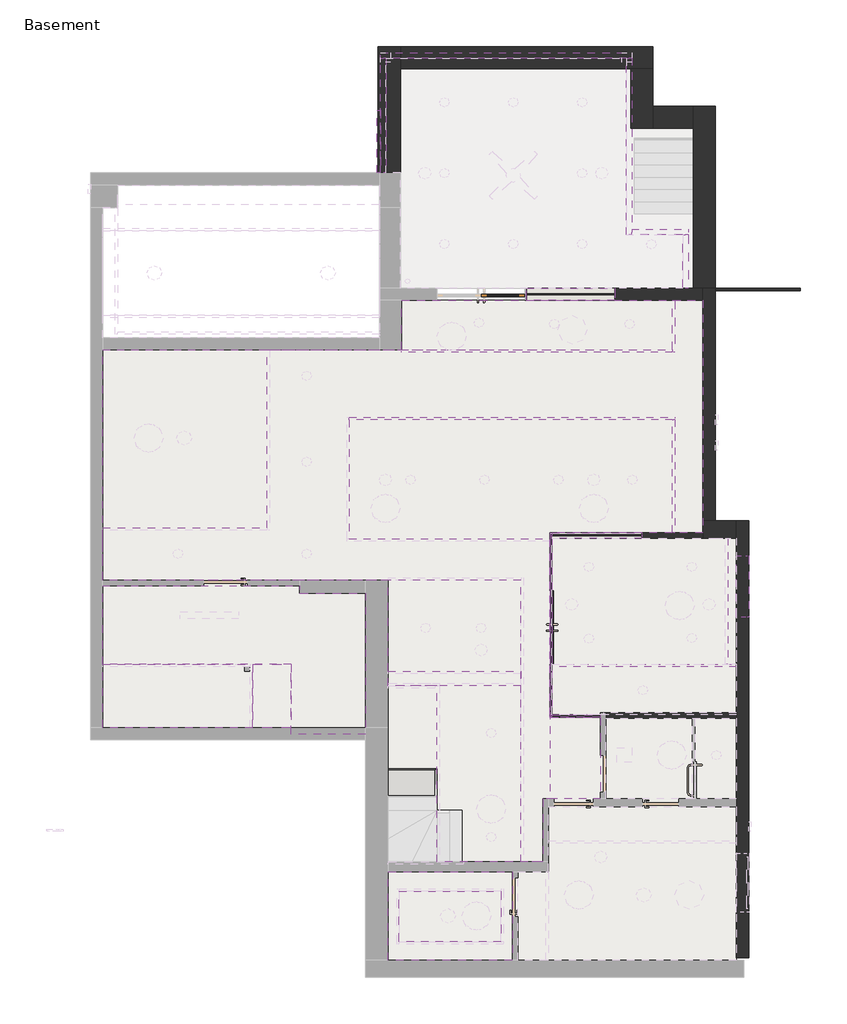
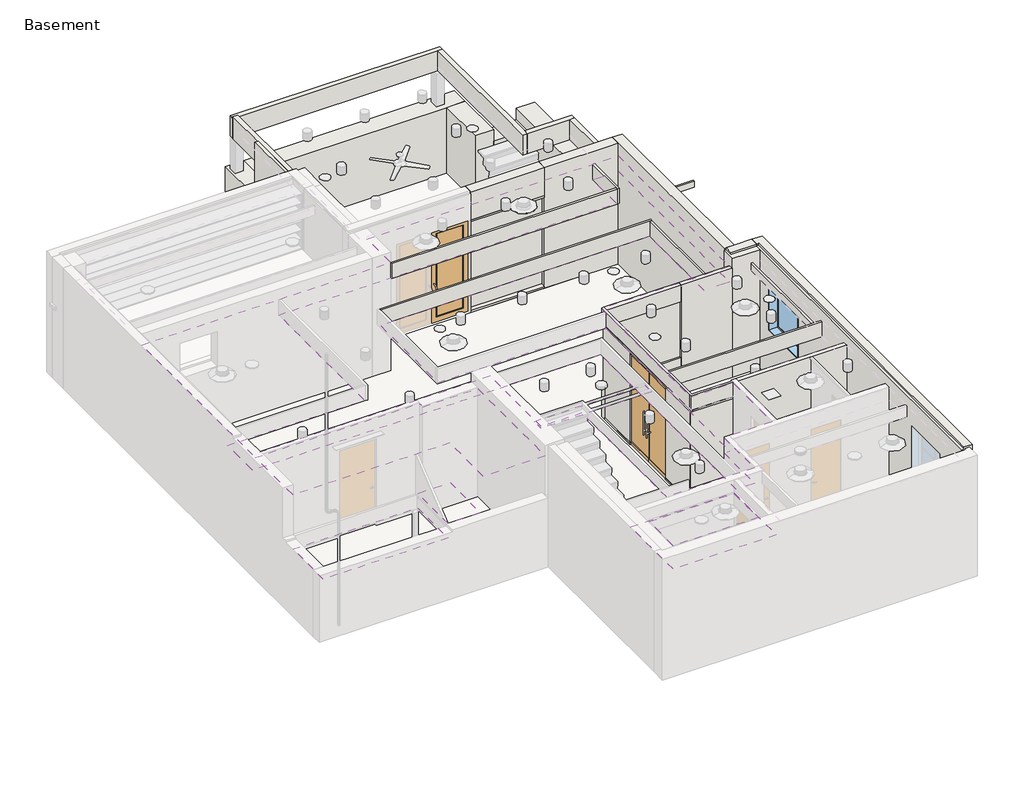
# One storey, part 2 of 3: 39 walls, 9 coverings, 3 doors, 1 slab, 1 window.
"""IFC4 building model written with IfcOpenShell, lengths in millimetres."""

from ifc_helpers import new_model, si_unit, point, frame, frame_2d, origin, place, context, project, spatial, polyline, circle_curve, trimmed, segment, composite_curve, outline, extrude, faceted_brep, transform, mapped, element, save
from components import door_6469e1a2, door_6d8508cd, door_7e4cb601, default_1_12f2cc98

model = new_model("IFC4")

# Units and contexts
model_context = context("Model", 3, world=origin())
ifc_project = project(units=[si_unit("LENGTHUNIT", "METRE", prefix="MILLI")], contexts=[model_context])

# Site, building, storey
site = spatial("IfcSite", under=ifc_project)
building = spatial("IfcBuilding", under=site)
storey = spatial("IfcBuildingStorey", under=building, Name="Basement", Elevation=-3175.0)

# Coverings
placement = place(None, origin())
element("IfcCovering", 1, ObjectType="2\"\" Open Ceiling", at=placement, inside=storey, context=model_context, shape_type="Brep", body=[
    faceted_brep([(13738.9081773, 7161.5409405, -317.5), (12373.8517773, 7161.5409405, -317.5), (12373.8517773, 7313.9409405, -317.5), (8297.1517773, 7313.9409405, -317.5), (8297.1517773, 5688.3409405, -317.5), (12196.0517773, 5688.3409405, -317.5), (12196.0517773, 4240.5409405, -317.5), (13738.9081773, 4240.5409405, -317.5), (13738.9081773, 7161.5409405, -330.2), (13738.9081773, 4240.5409405, -330.2), (12196.0517773, 4240.5409405, -330.2), (12196.0517773, 5688.3409405, -330.2), (8297.1517773, 5688.3409405, -330.2), (8297.1517773, 7313.9409405, -330.2), (12373.8517773, 7313.9409405, -330.2), (12373.8517773, 7161.5409405, -330.2), (11113.5517773, 6670.0857797, -330.2), (9900.3517773, 6670.0857797, -330.2), (9900.3517773, 6636.0857797, -330.2), (11113.5517773, 6636.0857797, -330.2), (11113.5517773, 6670.0857797, -325.8100103), (9900.3517773, 6670.0857797, -325.8100103), (9900.3517773, 6636.0857797, -325.8100103), (11113.5517773, 6636.0857797, -325.8100103)], [[[0, 1, 2, 3, 4, 5, 6, 7]], [[8, 9, 10, 11, 12, 13, 14, 15], [16, 17, 18, 19]], [[1, 0, 8, 15]], [[2, 1, 15, 14]], [[3, 2, 14, 13]], [[4, 3, 13, 12]], [[7, 6, 10, 9]], [[0, 7, 9, 8]], [[20, 21, 17, 16]], [[21, 22, 18, 17]], [[22, 23, 19, 18]], [[23, 20, 16, 19]], [[20, 23, 22, 21]], [[5, 4, 12, 11]], [[6, 5, 11, 10]]]),
])
element("IfcCovering", 2, ObjectType="1/2\" Ceiling", at=placement, inside=storey, context=model_context, shape_type="SweptSolid", body=[
    extrude(outline(polyline([(17415.7517773, 2907.0409405), (17415.7517773, 1598.9409405), (15225.0017773, 1598.9409405), (15225.0017773, 5243.8409405), (14208.8081773, 5243.8409405), (14208.8081773, 7428.2409405), (12373.8517773, 7428.2409405), (8297.1517773, 7428.2409405), (8297.1517773, 12203.4409405), (14484.4174773, 12203.4409405), (14484.4174773, 13225.7909405), (17072.8517773, 13225.7909405), (18901.6517773, 13225.7909405), (20730.4517773, 13225.7909405), (20730.4517773, 8418.8409405), (19460.4517773, 8418.8409405), (17555.4517773, 8418.8409405), (17555.4517773, 4596.1409405), (18609.5517773, 4596.1409405), (18609.5517773, 2907.0409405), (17415.7517773, 2907.0409405)]), holes=[composite_curve([segment(trimmed(circle_curve(frame_2d((14672.5517773, 9511.0409405)), 87.3), [point((14759.8517773, 9511.0409405))], [point((14585.2517773, 9511.0409405))], True, "CARTESIAN"), True, "CONTINUOUS"), segment(trimmed(circle_curve(frame_2d((14672.5517773, 9511.0409405)), 87.3), [point((14585.2517773, 9511.0409405))], [point((14759.8517773, 9511.0409405))], True, "CARTESIAN"), True, "CONTINUOUS")], self_intersect=False), composite_curve([segment(trimmed(circle_curve(frame_2d((16205.0219773, 9511.0409405)), 87.3), [point((16292.3219773, 9511.0409405))], [point((16117.7219773, 9511.0409405))], True, "CARTESIAN"), True, "CONTINUOUS"), segment(trimmed(circle_curve(frame_2d((16205.0219773, 9511.0409405)), 87.3), [point((16117.7219773, 9511.0409405))], [point((16292.3219773, 9511.0409405))], True, "CARTESIAN"), True, "CONTINUOUS")], self_intersect=False), composite_curve([segment(trimmed(circle_curve(frame_2d((17737.4921773, 9511.0409405)), 87.3), [point((17824.7921773, 9511.0409405))], [point((17650.1921773, 9511.0409405))], True, "CARTESIAN"), True, "CONTINUOUS"), segment(trimmed(circle_curve(frame_2d((17737.4921773, 9511.0409405)), 87.3), [point((17650.1921773, 9511.0409405))], [point((17824.7921773, 9511.0409405))], True, "CARTESIAN"), True, "CONTINUOUS")], self_intersect=False), composite_curve([segment(trimmed(circle_curve(frame_2d((19269.9623773, 9511.0409405)), 87.3), [point((19357.2623773, 9511.0409405))], [point((19182.6623773, 9511.0409405))], True, "CARTESIAN"), True, "CONTINUOUS"), segment(trimmed(circle_curve(frame_2d((19269.9623773, 9511.0409405)), 87.3), [point((19182.6623773, 9511.0409405))], [point((19357.2623773, 9511.0409405))], True, "CARTESIAN"), True, "CONTINUOUS")], self_intersect=False), composite_curve([segment(trimmed(circle_curve(frame_2d((19212.8123773, 12736.8409405)), 87.3), [point((19300.1123773, 12736.8409405))], [point((19125.5123773, 12736.8409405))], True, "CARTESIAN"), True, "CONTINUOUS"), segment(trimmed(circle_curve(frame_2d((19212.8123773, 12736.8409405)), 87.3), [point((19125.5123773, 12736.8409405))], [point((19300.1123773, 12736.8409405))], True, "CARTESIAN"), True, "CONTINUOUS")], self_intersect=False), composite_curve([segment(trimmed(circle_curve(frame_2d((17650.7123773, 12736.8409405)), 87.3), [point((17738.0123773, 12736.8409405))], [point((17563.4123773, 12736.8409405))], True, "CARTESIAN"), True, "CONTINUOUS"), segment(trimmed(circle_curve(frame_2d((17650.7123773, 12736.8409405)), 87.3), [point((17563.4123773, 12736.8409405))], [point((17738.0123773, 12736.8409405))], True, "CARTESIAN"), True, "CONTINUOUS")], self_intersect=False), composite_curve([segment(trimmed(circle_curve(frame_2d((16088.6123773, 12762.2409405)), 87.3), [point((16175.9123773, 12762.2409405))], [point((16001.3123773, 12762.2409405))], True, "CARTESIAN"), True, "CONTINUOUS"), segment(trimmed(circle_curve(frame_2d((16088.6123773, 12762.2409405)), 87.3), [point((16001.3123773, 12762.2409405))], [point((16175.9123773, 12762.2409405))], True, "CARTESIAN"), True, "CONTINUOUS")], self_intersect=False), composite_curve([segment(trimmed(circle_curve(frame_2d((16342.6017773, 2113.2909405)), 87.3), [point((16429.9017773, 2113.2909405))], [point((16255.3017773, 2113.2909405))], True, "CARTESIAN"), True, "CONTINUOUS"), segment(trimmed(circle_curve(frame_2d((16342.6017773, 2113.2909405)), 87.3), [point((16255.3017773, 2113.2909405))], [point((16429.9017773, 2113.2909405))], True, "CARTESIAN"), True, "CONTINUOUS")], self_intersect=False), composite_curve([segment(trimmed(circle_curve(frame_2d((16342.6017773, 4265.9409405)), 87.3), [point((16429.9017773, 4265.9409405))], [point((16255.3017773, 4265.9409405))], True, "CARTESIAN"), True, "CONTINUOUS"), segment(trimmed(circle_curve(frame_2d((16342.6017773, 4265.9409405)), 87.3), [point((16255.3017773, 4265.9409405))], [point((16429.9017773, 4265.9409405))], True, "CARTESIAN"), True, "CONTINUOUS")], self_intersect=False), composite_curve([segment(trimmed(circle_curve(frame_2d((14983.7017773, 6443.9909405)), 87.3), [point((15071.0017773, 6443.9909405))], [point((14896.4017773, 6443.9909405))], True, "CARTESIAN"), True, "CONTINUOUS"), segment(trimmed(circle_curve(frame_2d((14983.7017773, 6443.9909405)), 87.3), [point((14896.4017773, 6443.9909405))], [point((15071.0017773, 6443.9909405))], True, "CARTESIAN"), True, "CONTINUOUS")], self_intersect=False), composite_curve([segment(trimmed(circle_curve(frame_2d((16133.0517773, 6443.9909405)), 87.3), [point((16220.3517773, 6443.9909405))], [point((16045.7517773, 6443.9909405))], True, "CARTESIAN"), True, "CONTINUOUS"), segment(trimmed(circle_curve(frame_2d((16133.0517773, 6443.9909405)), 87.3), [point((16045.7517773, 6443.9909405))], [point((16220.3517773, 6443.9909405))], True, "CARTESIAN"), True, "CONTINUOUS")], self_intersect=False)]), frame((0.0, 0.0, -330.2), z_axis=(0.0, 0.0, 1.0), x_axis=(1.0, 0.0, 0.0)), (0.0, 0.0, 1.0), 12.7),
])
element("IfcCovering", 3, ObjectType="1/2\" Ceiling", at=placement, inside=storey, context=model_context, shape_type="SweptSolid", body=[
    extrude(outline(polyline([(16545.8017773, -58.4090595), (14437.6017773, -58.4090595), (14437.6017773, 989.3409405), (16545.8017773, 989.3409405), (16545.8017773, -58.4090595)])), frame((0.0, 0.0, -330.2), z_axis=(0.0, 0.0, 1.0), x_axis=(1.0, 0.0, 0.0)), (0.0, 0.0, 1.0), 12.7),
])
element("IfcCovering", 4, ObjectType="1/2\" Ceiling", at=placement, inside=storey, context=model_context, shape_type="SweptSolid", body=[
    extrude(outline(polyline([(8297.1517773, 7428.2409405), (8297.1517773, 8514.0909405), (11700.7517773, 8514.0909405), (11700.7517773, 12203.4409405), (20095.4517773, 12203.4409405), (20095.4517773, 13225.7909405), (20730.4517773, 13225.7909405), (20730.4517773, 8418.8409405), (20095.4517773, 8418.8409405), (20095.4517773, 10755.6409405), (13402.5517773, 10755.6409405), (13402.5517773, 8291.8409405), (17555.4517773, 8291.8409405), (17555.4517773, 2907.0409405), (17415.7517773, 2907.0409405), (17415.7517773, 1598.9409405), (16958.5517773, 1598.9409405), (16958.5517773, 7428.2409405), (8297.1517773, 7428.2409405)]), holes=[composite_curve([segment(trimmed(circle_curve(frame_2d((9852.9017773, 7980.6909405)), 87.3), [point((9940.2017773, 7980.6909405))], [point((9765.6017773, 7980.6909405))], True, "CARTESIAN"), True, "CONTINUOUS"), segment(trimmed(circle_curve(frame_2d((9852.9017773, 7980.6909405)), 87.3), [point((9765.6017773, 7980.6909405))], [point((9940.2017773, 7980.6909405))], True, "CARTESIAN"), True, "CONTINUOUS")], self_intersect=False), composite_curve([segment(trimmed(circle_curve(frame_2d((12519.9985773, 7980.6909405)), 87.3), [point((12607.2985773, 7980.6909405))], [point((12432.6985773, 7980.6909405))], True, "CARTESIAN"), True, "CONTINUOUS"), segment(trimmed(circle_curve(frame_2d((12519.9985773, 7980.6909405)), 87.3), [point((12432.6985773, 7980.6909405))], [point((12607.2985773, 7980.6909405))], True, "CARTESIAN"), True, "CONTINUOUS")], self_intersect=False), composite_curve([segment(trimmed(circle_curve(frame_2d((12519.9985773, 9885.6909405)), 87.3), [point((12607.2985773, 9885.6909405))], [point((12432.6985773, 9885.6909405))], True, "CARTESIAN"), True, "CONTINUOUS"), segment(trimmed(circle_curve(frame_2d((12519.9985773, 9885.6909405)), 87.3), [point((12432.6985773, 9885.6909405))], [point((12607.2985773, 9885.6909405))], True, "CARTESIAN"), True, "CONTINUOUS")], self_intersect=False), composite_curve([segment(trimmed(circle_curve(frame_2d((12519.9985773, 11663.6909405)), 87.3), [point((12607.2985773, 11663.6909405))], [point((12432.6985773, 11663.6909405))], True, "CARTESIAN"), True, "CONTINUOUS"), segment(trimmed(circle_curve(frame_2d((12519.9985773, 11663.6909405)), 87.3), [point((12432.6985773, 11663.6909405))], [point((12607.2985773, 11663.6909405))], True, "CARTESIAN"), True, "CONTINUOUS")], self_intersect=False)]), frame((0.0, 0.0, -736.6), z_axis=(0.0, 0.0, 1.0), x_axis=(1.0, 0.0, 0.0)), (0.0, 0.0, 1.0), 12.7),
])
element("IfcCovering", 5, ObjectType="1/2\" Ceiling", at=placement, inside=storey, context=model_context, shape_type="SweptSolid", body=[
    extrude(outline(polyline([(16780.7517773, 1395.7409405), (16780.7517773, -439.4090595), (14208.8081773, -439.4090595), (14208.8081773, 1395.7409405), (16780.7517773, 1395.7409405)]), holes=[polyline([(16545.8017773, 989.3409405), (14437.6017773, 989.3409405), (14437.6017773, -58.4090595), (16545.8017773, -58.4090595), (16545.8017773, 989.3409405)])]), frame((0.0, 0.0, -635.0), z_axis=(0.0, 0.0, 1.0), x_axis=(1.0, 0.0, 0.0)), (0.0, 0.0, 1.0), 12.7),
])
element("IfcCovering", 6, ObjectType="1/2\" Ceiling", at=placement, inside=storey, context=model_context, shape_type="SweptSolid", body=[
    extrude(outline(polyline([(14208.8081773, 5548.6409405), (16958.5517773, 5548.6409405), (16958.5517773, 5243.8409405), (14208.8081773, 5243.8409405), (14208.8081773, 5548.6409405)])), frame((0.0, 0.0, -381.0), z_axis=(0.0, 0.0, 1.0), x_axis=(1.0, 0.0, 0.0)), (0.0, 0.0, 1.0), 12.7),
])
element("IfcCovering", 7, ObjectType="1/2\" Ceiling", at=placement, inside=storey, context=model_context, shape_type="SweptSolid", body=[
    extrude(outline(polyline([(8297.1517773, 5688.3409405), (11395.9517773, 5688.3409405), (11395.9517773, 4380.2409405), (8297.1517773, 4380.2409405), (8297.1517773, 5688.3409405)])), frame((0.0, 0.0, -1752.6), z_axis=(0.0, 0.0, 1.0), x_axis=(1.0, 0.0, 0.0)), (0.0, 0.0, 1.0), 12.7),
])
element("IfcCovering", 8, ObjectType="1/2\" Ceiling", at=placement, inside=storey, context=model_context, shape_type="SweptSolid", body=[
    extrude(outline(polyline([(4380.2409405, -1355.372211), (5688.3409405, -314.8624885), (5688.3409405, -331.0902774), (4380.2409405, -1371.6), (4380.2409405, -1355.372211)])), frame((11395.9517773, 0.0, 0.0), z_axis=(1.0, 0.0, 0.0), x_axis=(0.0, 1.0, 0.0)), (0.0, 0.0, 1.0), 804.9),
])
element("IfcCovering", 9, ObjectType="1/2\" Ceiling", at=placement, inside=storey, context=model_context, shape_type="Brep", body=[
    faceted_brep([(14208.8081773, 5243.8409405, -418.9315203), (14208.8081773, 5228.379826, -432.8039849), (14208.8081773, 2665.3409405, -2732.4872525), (15225.0017773, 2665.3409405, -2732.4872525), (15225.0017773, 2665.7409405, -2732.128353), (15225.0017773, 5243.8409405, -418.9315203), (15174.2017773, 5243.8409405, -418.9315203), (14208.8081773, 5243.8409405, -435.9942679), (15225.0017773, 5243.8409405, -435.9942679), (15225.0017773, 2665.3409405, -2749.55), (14208.8081773, 2665.3409405, -2749.55)], [[[0, 1, 2, 3, 4, 5, 6]], [[7, 8, 9, 10]], [[2, 1, 0, 7, 10]], [[3, 2, 10, 9]], [[5, 4, 3, 9, 8]], [[0, 6, 5, 8, 7]]]),
])

# Doors
door_shape = door_6469e1a2(model_context)
element("IfcDoor", 10, ObjectType="Planitar - Swap_Full Glass_Panel_D2 : Planitar - Swap_Full Glass_Panel_D2", at=placement, inside=storey, context=model_context, shape_type="MappedRepresentation", body=[
    mapped(door_shape, transform((17606.2517773, 6069.3409405, -3175.0), x_axis=(0.0, -1.0, 0.0), y_axis=(1.0, 0.0, 0.0), z_axis=(0.0, 0.0, 1.0))),
])
door_2_shape = door_6d8508cd(model_context)
element("IfcDoor", 11, ObjectType="Planitar - Swap_Full Glass_Panel : Planitar - Swap_Full Glass_Panel", at=placement, inside=storey, context=model_context, shape_type="MappedRepresentation", body=[
    mapped(door_2_shape, transform((16590.2517773, 13327.3909405, -3175.0), x_axis=(1.0, 0.0, 0.0), y_axis=(0.0, 1.0, 0.0), z_axis=(0.0, 0.0, 1.0))),
])
door_3_shape = door_7e4cb601(model_context)
element("IfcDoor", 12, ObjectType="Planitar - Swap_Full Glass_Panel_D2 : Planitar - Swap_Full Glass_Panel_D2", at=placement, inside=storey, context=model_context, shape_type="MappedRepresentation", body=[
    mapped(door_3_shape, transform((17606.2517773, 6831.3409405, -3175.0), x_axis=(0.0, 1.0, 0.0), y_axis=(-1.0, 0.0, 0.0), z_axis=(0.0, 0.0, 1.0))),
])

# Slab
element("IfcSlab", 13, ObjectType="Ledge - 2\"", at=placement, inside=storey, context=model_context, shape_type="SweptSolid", body=[
    extrude(outline(polyline([(8297.1517773, 4380.2409405), (8297.1517773, 12203.4409405), (14484.4174773, 12203.4409405), (14484.4174773, 13225.7909405), (20730.4517773, 13225.7909405), (20730.4517773, 8304.5409405), (21422.6017773, 8304.5409405), (21422.6017773, -439.4090595), (14208.8081773, -439.4090595), (14208.8081773, 4380.2409405), (8297.1517773, 4380.2409405)])), frame((0.0, 0.0, -3225.8), z_axis=(0.0, 0.0, 1.0), x_axis=(1.0, 0.0, 0.0)), (0.0, 0.0, 1.0), 50.8),
])

# Walls
element("IfcWall", 14, ObjectType="Planitar - Generic 10\"", at=placement, inside=storey, context=model_context, shape_type="Brep", body=[
    faceted_brep([(21676.6017773, -388.6090595, -3175.0), (21676.6017773, 8660.1409405, -3175.0), (21676.6017773, 8660.1409405, 0.0), (21676.6017773, -388.6090595, 0.0), (21676.6017773, 557.5409405, -1955.8), (21676.6017773, 557.5409405, -736.6), (21676.6017773, 1776.7409405, -736.6), (21676.6017773, 1776.7409405, -1955.8), (21676.6017773, 7936.2409405, -736.6), (21676.6017773, 7936.2409405, -1955.8), (21676.6017773, 6666.2409405, -1955.8), (21676.6017773, 6666.2409405, -736.6), (21422.6017773, 8660.1409405, -3175.0), (21422.6017773, 8304.5409405, -3175.0), (21422.6017773, 4685.0409405, -3175.0), (21422.6017773, 4570.7409405, -3175.0), (21422.6017773, 2907.0409405, -3175.0), (21422.6017773, 2741.9409405, -3175.0), (21422.6017773, -388.6090595, -3175.0), (21422.6017773, -388.6090595, -50.8), (21422.6017773, 8304.5409405, -50.8), (21422.6017773, 8456.9409405, -50.8), (21422.6017773, 8456.9409405, 0.0), (21422.6017773, 8660.1409405, 0.0), (21422.6017773, 557.5409405, -736.6), (21422.6017773, 557.5409405, -1955.8), (21422.6017773, 1776.7409405, -1955.8), (21422.6017773, 1776.7409405, -736.6), (21422.6017773, 7936.2409405, -1955.8), (21422.6017773, 7936.2409405, -736.6), (21422.6017773, 6666.2409405, -736.6), (21422.6017773, 6666.2409405, -1955.8), (21549.6017773, -388.6090595, -3175.0), (21473.3049773, 8660.1409405, 0.0), (21473.3049773, 8456.9409405, 0.0), (21473.3049773, -388.6090595, 0.0), (21473.3049773, -388.6090595, -50.8), (21473.3049773, 8456.9409405, -50.8)], [[[0, 1, 2, 3], [4, 5, 6, 7], [8, 9, 10, 11]], [[12, 13, 14, 15, 16, 17, 18, 19, 20, 21, 22, 23], [24, 25, 26, 27], [28, 29, 30, 31]], [[1, 0, 32, 18, 17, 16, 15, 14, 13, 12]], [[3, 2, 33, 23, 22, 34, 35]], [[2, 1, 12, 23, 33]], [[25, 24, 5, 4]], [[26, 25, 4, 7]], [[27, 26, 7, 6]], [[24, 27, 6, 5]], [[36, 37, 21, 20, 19]], [[37, 34, 22, 21]], [[34, 37, 36, 35]], [[29, 28, 9, 8]], [[30, 29, 8, 11]], [[31, 30, 11, 10]], [[28, 31, 10, 9]], [[0, 3, 35, 36, 19, 18, 32]]]),
])
element("IfcWall", 15, ObjectType="Planitar - Generic 1' - 2\"", at=placement, inside=storey, context=model_context, shape_type="Brep", body=[
    faceted_brep([(21422.6017773, 8660.1409405, -3175.0), (20984.4517773, 8660.1409405, -3175.0), (20730.4517773, 8660.1409405, -3175.0), (20730.4517773, 8660.1409405, -50.8), (20781.2517773, 8660.1409405, -50.8), (20781.2517773, 8660.1409405, 0.0), (20984.4517773, 8660.1409405, 0.0), (21422.6017773, 8660.1409405, 0.0), (20730.4517773, 8304.5409405, -3175.0), (21422.6017773, 8304.5409405, -3175.0), (21422.6017773, 8304.5409405, -50.8), (20730.4517773, 8304.5409405, -50.8), (20730.4517773, 8304.5409405, -304.8), (20730.4517773, 8418.8409405, -3175.0), (20781.2517773, 8456.9409405, 0.0), (21422.6017773, 8456.9409405, 0.0), (21422.6017773, 8456.9409405, -50.8), (20781.2517773, 8456.9409405, -50.8)], [[[0, 1, 2, 3, 4, 5, 6, 7]], [[8, 9, 10, 11, 12]], [[2, 1, 0, 9, 8, 13]], [[7, 6, 5, 14, 15]], [[0, 7, 15, 16, 10, 9]], [[2, 13, 8, 12, 11, 3]], [[16, 17, 4, 3, 11, 10]], [[17, 14, 5, 4]], [[14, 17, 16, 15]]]),
])
element("IfcWall", 16, ObjectType="Planitar - Generic 10\"", at=placement, inside=storey, context=model_context, shape_type="Brep", body=[
    faceted_brep([(20984.4517773, 8660.1409405, 0.0), (20984.4517773, 8660.1409405, -3175.0), (20984.4517773, 13479.7909405, -3175.0), (20984.4517773, 13479.7909405, -1981.2), (20984.4517773, 13479.7909405, -1828.8), (20984.4517773, 13479.7909405, -1447.8), (20984.4517773, 13479.7909405, 0.0), (20730.4517773, 8660.1409405, -3175.0), (20730.4517773, 8660.1409405, -50.8), (20730.4517773, 8660.1409405, 0.0), (20730.4517773, 13225.7909405, 0.0), (20730.4517773, 13479.7909405, 0.0), (20730.4517773, 13479.7909405, -3175.0), (20730.4517773, 13225.7909405, -3175.0), (20781.2517773, 8660.1409405, 0.0)], [[[0, 1, 2, 3, 4, 5, 6]], [[7, 8, 9, 10, 11, 12, 13]], [[2, 1, 7, 13, 12]], [[0, 6, 11, 10, 9, 14]], [[0, 14, 9, 8, 7, 1]], [[2, 12, 11, 6, 5, 4, 3]]]),
])
element("IfcWall", 17, ObjectType="Planitar - Generic 10\"", at=placement, inside=storey, context=model_context, shape_type="Brep", body=[
    faceted_brep([(20730.4517773, 13479.7909405, 0.0), (20730.4517773, 13479.7909405, -3175.0), (20527.2517773, 13479.7909405, -3175.0), (18901.6517773, 13479.7909405, -3175.0), (18901.6517773, 13479.7909405, -3124.2), (18901.6517773, 13479.7909405, 0.0), (20730.4517773, 13225.7909405, -3175.0), (20730.4517773, 13225.7909405, 0.0), (18901.6517773, 13225.7909405, 0.0), (18901.6517773, 13225.7909405, -736.6), (18901.6517773, 13225.7909405, -787.4), (18901.6517773, 13225.7909405, -3124.2), (18901.6517773, 13225.7909405, -3175.0)], [[[0, 1, 2, 3, 4, 5]], [[6, 7, 8, 9, 10, 11, 12]], [[3, 2, 1, 6, 12]], [[0, 5, 8, 7]], [[3, 12, 11, 10, 9, 8, 5, 4]], [[0, 7, 6, 1]]]),
])
element("IfcWall", 18, ObjectType="Planitar - Generic 4 1/2\"", at=placement, inside=storey, context=model_context, shape_type="Brep", body=[
    faceted_brep([(18723.8517773, 4570.7409405, -304.8), (18723.8517773, 4570.7409405, -3175.0), (20514.5517773, 4570.7409405, -3175.0), (20565.3517773, 4570.7409405, -3175.0), (21422.6017773, 4570.7409405, -3175.0), (21422.6017773, 4570.7409405, -304.8), (20565.3517773, 4570.7409405, -304.8), (20514.5517773, 4570.7409405, -304.8), (18723.8517773, 4685.0409405, -3175.0), (18723.8517773, 4685.0409405, -304.8), (21422.6017773, 4685.0409405, -304.8), (21422.6017773, 4685.0409405, -3175.0)], [[[0, 1, 2, 3, 4, 5, 6, 7]], [[8, 9, 10, 11]], [[4, 3, 2, 1, 8, 11]], [[0, 7, 6, 5, 10, 9]], [[5, 4, 11, 10]], [[0, 9, 8, 1]]]),
])
element("IfcWall", 19, ObjectType="Planitar - Generic 4 1/2\"", at=placement, inside=storey, context=model_context, shape_type="Brep", body=[
    faceted_brep([(20730.4517773, 8418.8409405, -3175.0), (19460.4517773, 8418.8409405, -3175.0), (19460.4517773, 8418.8409405, -2260.6), (19460.4517773, 8418.8409405, -2209.8), (19460.4517773, 8418.8409405, -736.6), (19460.4517773, 8418.8409405, -685.8), (19460.4517773, 8418.8409405, -304.8), (20730.4517773, 8418.8409405, -304.8), (20730.4517773, 8304.5409405, -3175.0), (20730.4517773, 8304.5409405, -304.8), (19460.4517773, 8304.5409405, -304.8), (19460.4517773, 8304.5409405, -685.8), (19460.4517773, 8304.5409405, -736.6), (19460.4517773, 8304.5409405, -2209.8), (19460.4517773, 8304.5409405, -2260.6), (19460.4517773, 8304.5409405, -3175.0)], [[[0, 1, 2, 3, 4, 5, 6, 7]], [[8, 9, 10, 11, 12, 13, 14, 15]], [[1, 0, 8, 15]], [[7, 6, 10, 9]], [[0, 7, 9, 8]], [[1, 15, 14, 13, 12, 11, 10, 6, 5, 4, 3, 2]]]),
])
element("IfcWall", 20, ObjectType="Planitar - Generic 2\"", at=placement, inside=storey, context=model_context, shape_type="Brep", body=[
    faceted_brep([(17555.4517773, 4596.1409405, -3175.0), (18609.5517773, 4596.1409405, -3175.0), (18609.5517773, 4596.1409405, -3124.2), (17555.4517773, 4596.1409405, -3124.2), (17555.4517773, 4646.9409405, -3175.0), (17555.4517773, 4646.9409405, -3124.2), (17606.2517773, 4646.9409405, -3124.2), (18609.5517773, 4646.9409405, -3124.2), (18609.5517773, 4646.9409405, -3175.0), (17606.2517773, 4646.9409405, -3175.0), (18609.5517773, 4608.8409405, -3124.2), (18609.5517773, 4634.2409405, -3124.2)], [[[0, 1, 2, 3]], [[4, 5, 6, 7, 8, 9]], [[1, 0, 4, 9, 8]], [[3, 2, 10, 11, 7, 6, 5]], [[2, 1, 8, 7, 11, 10]], [[0, 3, 5, 4]]]),
])
element("IfcWall", 21, ObjectType="Planitar - Curtain wall (Curved)", at=placement, inside=storey, context=model_context, shape_type="Brep", body=[
    faceted_brep([(17568.1517773, 4608.8409405, -3124.2), (18609.5517773, 4608.8409405, -3124.2), (18609.5517773, 4608.8409405, -736.6), (17568.1517773, 4608.8409405, -736.6), (17568.1517773, 4634.2409405, -3124.2), (17568.1517773, 4634.2409405, -736.6), (17593.5517773, 4634.2409405, -736.6), (18609.5517773, 4634.2409405, -736.6), (18609.5517773, 4634.2409405, -3124.2), (17593.5517773, 4634.2409405, -3124.2)], [[[0, 1, 2, 3]], [[4, 5, 6, 7, 8, 9]], [[1, 0, 4, 9, 8]], [[3, 2, 7, 6, 5]], [[2, 1, 8, 7]], [[0, 3, 5, 4]]]),
])
element("IfcWall", 22, ObjectType="Planitar - Generic 2\"", at=placement, inside=storey, context=model_context, shape_type="Brep", body=[
    faceted_brep([(17555.4517773, 4646.9409405, -3175.0), (17555.4517773, 4646.9409405, -3124.2), (17555.4517773, 5688.3409405, -3124.2), (17555.4517773, 5688.3409405, -3175.0), (17606.2517773, 4646.9409405, -3124.2), (17606.2517773, 4646.9409405, -3175.0), (17606.2517773, 5688.3409405, -3175.0), (17606.2517773, 5688.3409405, -3124.2), (17593.5517773, 5688.3409405, -3124.2), (17568.1517773, 5688.3409405, -3124.2)], [[[0, 1, 2, 3]], [[4, 5, 6, 7]], [[5, 0, 3, 6]], [[1, 4, 7, 8, 9, 2]], [[1, 0, 5, 4]], [[3, 2, 9, 8, 7, 6]]]),
    faceted_brep([(17555.4517773, 8304.5409405, -3124.2), (17555.4517773, 8304.5409405, -3175.0), (17555.4517773, 7212.3409405, -3175.0), (17555.4517773, 7212.3409405, -3124.2), (17606.2517773, 8304.5409405, -3175.0), (17606.2517773, 8304.5409405, -3124.2), (17606.2517773, 7212.3409405, -3124.2), (17606.2517773, 7212.3409405, -3175.0), (17593.5517773, 8304.5409405, -3124.2), (17568.1517773, 8304.5409405, -3124.2), (17568.1517773, 7212.3409405, -3124.2), (17593.5517773, 7212.3409405, -3124.2)], [[[0, 1, 2, 3]], [[4, 5, 6, 7]], [[1, 4, 7, 2]], [[5, 8, 9, 0, 3, 10, 11, 6]], [[1, 0, 9, 8, 5, 4]], [[3, 2, 7, 6, 11, 10]]]),
])
element("IfcWall", 23, ObjectType="Planitar - Curtain wall (Curved)", at=placement, inside=storey, context=model_context, shape_type="Brep", body=[
    faceted_brep([(17568.1517773, 4634.2409405, -3124.2), (17568.1517773, 4634.2409405, -736.6), (17568.1517773, 5688.3409405, -736.6), (17568.1517773, 5688.3409405, -3124.2), (17593.5517773, 4634.2409405, -736.6), (17593.5517773, 4634.2409405, -3124.2), (17593.5517773, 5688.3409405, -3124.2), (17593.5517773, 5688.3409405, -736.6)], [[[0, 1, 2, 3]], [[4, 5, 6, 7]], [[5, 0, 3, 6]], [[1, 4, 7, 2]], [[1, 0, 5, 4]], [[3, 2, 7, 6]]]),
    faceted_brep([(17568.1517773, 8374.3909405, -2209.8), (17568.1517773, 8304.5409405, -2209.8), (17568.1517773, 8304.5409405, -3124.2), (17568.1517773, 7212.3409405, -3124.2), (17568.1517773, 7212.3409405, -736.6), (17568.1517773, 8374.3909405, -736.6), (17593.5517773, 8304.5409405, -2209.8), (17593.5517773, 8348.9909405, -2209.8), (17593.5517773, 8374.3909405, -2209.8), (17593.5517773, 8374.3909405, -736.6), (17593.5517773, 8348.9909405, -736.6), (17593.5517773, 7212.3409405, -736.6), (17593.5517773, 7212.3409405, -3124.2), (17593.5517773, 8304.5409405, -3124.2)], [[[0, 1, 2, 3, 4, 5]], [[6, 7, 8, 9, 10, 11, 12, 13]], [[2, 13, 12, 3]], [[9, 5, 4, 11, 10]], [[8, 7, 6, 1, 0]], [[13, 2, 1, 6]], [[5, 9, 8, 0]], [[4, 3, 12, 11]]]),
])
element("IfcWall", 24, ObjectType="Planitar - Curtain wall (Curved)", at=placement, inside=storey, context=model_context, shape_type="SweptSolid", body=[
    extrude(outline(polyline([(17593.5517773, 8374.3909405), (19460.4517773, 8374.3909405), (19460.4517773, 8348.9909405), (17593.5517773, 8348.9909405), (17593.5517773, 8374.3909405)])), frame((0.0, 0.0, -2209.8), z_axis=(0.0, 0.0, 1.0), x_axis=(1.0, 0.0, 0.0)), (0.0, 0.0, 1.0), 1473.2),
])
element("IfcWall", 25, ObjectType="Planitar - Generic 4 1/2\"", at=placement, inside=storey, context=model_context, shape_type="Brep", body=[
    faceted_brep([(19460.4517773, 8418.8409405, -3175.0), (17555.4517773, 8418.8409405, -3175.0), (17555.4517773, 8418.8409405, -2209.8), (19460.4517773, 8418.8409405, -2209.8), (17555.4517773, 8304.5409405, -3175.0), (17606.2517773, 8304.5409405, -3175.0), (19460.4517773, 8304.5409405, -3175.0), (19460.4517773, 8304.5409405, -2209.8), (17593.5517773, 8304.5409405, -2209.8), (17568.1517773, 8304.5409405, -2209.8), (17555.4517773, 8304.5409405, -2209.8), (17555.4517773, 8304.5409405, -3124.2), (19460.4517773, 8348.9909405, -2209.8), (19460.4517773, 8374.3909405, -2209.8)], [[[0, 1, 2, 3]], [[4, 5, 6, 7, 8, 9, 10, 11]], [[1, 0, 6, 5, 4]], [[2, 1, 4, 11, 10]], [[3, 2, 10, 9, 8, 7, 12, 13]], [[3, 13, 12, 7, 6, 0]]]),
])
element("IfcWall", 26, ObjectType="Planitar - Generic 10\"", at=placement, inside=storey, context=model_context, shape_type="Brep", body=[
    faceted_brep([(18901.6517773, 13479.7909405, -3175.0), (17072.8517773, 13479.7909405, -3175.0), (17072.8517773, 13479.7909405, -3124.2), (18901.6517773, 13479.7909405, -3124.2), (18901.6517773, 13225.7909405, -3175.0), (18901.6517773, 13225.7909405, -3124.2), (17072.8517773, 13225.7909405, -3124.2), (17072.8517773, 13225.7909405, -3175.0), (17072.8517773, 13340.0909405, -3124.2), (17072.8517773, 13365.4909405, -3124.2), (18901.6517773, 13340.0909405, -3124.2), (18901.6517773, 13365.4909405, -3124.2)], [[[0, 1, 2, 3]], [[4, 5, 6, 7]], [[1, 0, 4, 7]], [[2, 1, 7, 6, 8, 9]], [[3, 2, 9, 8, 6, 5, 10, 11]], [[0, 3, 11, 10, 5, 4]]]),
])
element("IfcWall", 27, ObjectType="Planitar - Curtain wall (Curved)", at=placement, inside=storey, context=model_context, shape_type="SweptSolid", body=[
    extrude(outline(polyline([(17072.8517773, 13365.4909405), (18901.6517773, 13365.4909405), (18901.6517773, 13340.0909405), (17072.8517773, 13340.0909405), (17072.8517773, 13365.4909405)])), frame((0.0, 0.0, -3124.2), z_axis=(0.0, 0.0, 1.0), x_axis=(1.0, 0.0, 0.0)), (0.0, 0.0, 1.0), 2336.8),
])
element("IfcWall", 28, ObjectType="Planitar - Generic 10\"", at=placement, inside=storey, context=model_context, shape_type="Brep", body=[
    faceted_brep([(18901.6517773, 13479.7909405, -787.4), (17072.8517773, 13479.7909405, -787.4), (17072.8517773, 13479.7909405, -736.6), (18901.6517773, 13479.7909405, -736.6), (18901.6517773, 13225.7909405, -787.4), (18901.6517773, 13225.7909405, -736.6), (17072.8517773, 13225.7909405, -736.6), (17072.8517773, 13225.7909405, -787.4), (18901.6517773, 13365.4909405, -787.4), (18901.6517773, 13340.0909405, -787.4), (17072.8517773, 13340.0909405, -787.4), (17072.8517773, 13365.4909405, -787.4)], [[[0, 1, 2, 3]], [[4, 5, 6, 7]], [[1, 0, 8, 9, 4, 7, 10, 11]], [[2, 1, 11, 10, 7, 6]], [[3, 2, 6, 5]], [[0, 3, 5, 4, 9, 8]]]),
])
element("IfcWall", 29, ObjectType="Planitar - Generic 10\"", at=placement, inside=storey, context=model_context, shape_type="Brep", body=[
    faceted_brep([(17072.8517773, 13225.7909405, -736.6), (18901.6517773, 13225.7909405, -736.6), (18901.6517773, 13225.7909405, 0.0), (17072.8517773, 13225.7909405, 0.0), (17072.8517773, 13225.7909405, -50.8), (17072.8517773, 13479.7909405, -736.6), (17072.8517773, 13479.7909405, 0.0), (18901.6517773, 13479.7909405, 0.0), (18901.6517773, 13479.7909405, -736.6), (17072.8517773, 13276.5909405, 0.0)], [[[0, 1, 2, 3, 4]], [[5, 6, 7, 8]], [[1, 0, 5, 8]], [[2, 1, 8, 7]], [[3, 2, 7, 6, 9]], [[0, 4, 3, 9, 6, 5]]]),
])
element("IfcWall", 30, ObjectType="Planitar - Generic 2\"", at=placement, inside=storey, context=model_context, shape_type="Brep", body=[
    faceted_brep([(13402.5517773, 10755.6409405, -723.9), (20095.4517773, 10755.6409405, -723.9), (20146.2517773, 10755.6409405, -723.9), (20146.2517773, 10755.6409405, -330.2), (20095.4517773, 10755.6409405, -330.2), (13402.5517773, 10755.6409405, -330.2), (13402.5517773, 10806.4409405, -723.9), (13402.5517773, 10806.4409405, -330.2), (20146.2517773, 10806.4409405, -330.2), (20146.2517773, 10806.4409405, -723.9)], [[[0, 1, 2, 3, 4, 5]], [[6, 7, 8, 9]], [[2, 1, 0, 6, 9]], [[5, 4, 3, 8, 7]], [[0, 5, 7, 6]], [[3, 2, 9, 8]]]),
])
element("IfcWall", 31, ObjectType="Planitar - Generic 2\"", at=placement, inside=storey, context=model_context, shape_type="SweptSolid", body=[
    extrude(outline(polyline([(20095.4517773, 8418.8409405), (20095.4517773, 10755.6409405), (20146.2517773, 10755.6409405), (20146.2517773, 8418.8409405), (20095.4517773, 8418.8409405)])), frame((0.0, 0.0, -723.9), z_axis=(0.0, 0.0, 1.0), x_axis=(1.0, 0.0, 0.0)), (0.0, 0.0, 1.0), 393.7),
])
element("IfcWall", 32, ObjectType="Planitar - Generic 2\"", at=placement, inside=storey, context=model_context, shape_type="Brep", body=[
    faceted_brep([(20095.4517773, 13225.7909405, -723.9), (20095.4517773, 12203.4409405, -723.9), (20095.4517773, 12152.6409405, -723.9), (20095.4517773, 12152.6409405, -330.2), (20095.4517773, 12203.4409405, -330.2), (20095.4517773, 13225.7909405, -330.2), (20146.2517773, 13225.7909405, -723.9), (20146.2517773, 13225.7909405, -330.2), (20146.2517773, 12152.6409405, -330.2), (20146.2517773, 12152.6409405, -723.9)], [[[0, 1, 2, 3, 4, 5]], [[6, 7, 8, 9]], [[2, 1, 0, 6, 9]], [[5, 4, 3, 8, 7]], [[0, 5, 7, 6]], [[3, 2, 9, 8]]]),
])
element("IfcWall", 33, ObjectType="Planitar - Generic 2\"", at=placement, inside=storey, context=model_context, shape_type="SweptSolid", body=[
    extrude(outline(polyline([(14482.0517773, 12203.4409405), (20095.4517773, 12203.4409405), (20095.4517773, 12152.6409405), (14482.0517773, 12152.6409405), (14482.0517773, 12203.4409405)])), frame((0.0, 0.0, -723.9), z_axis=(0.0, 0.0, 1.0), x_axis=(1.0, 0.0, 0.0)), (0.0, 0.0, 1.0), 393.7),
])
element("IfcWall", 34, ObjectType="Planitar - Generic 2\"", at=placement, inside=storey, context=model_context, shape_type="Brep", body=[
    faceted_brep([(17606.2517773, 5637.5409405, -723.9), (21422.6017773, 5637.5409405, -723.9), (21422.6017773, 5637.5409405, -330.2), (17606.2517773, 5637.5409405, -330.2), (17606.2517773, 5688.3409405, -723.9), (17606.2517773, 5688.3409405, -330.2), (21194.0017773, 5688.3409405, -330.2), (21244.8017773, 5688.3409405, -330.2), (21422.6017773, 5688.3409405, -330.2), (21422.6017773, 5688.3409405, -723.9)], [[[0, 1, 2, 3]], [[4, 5, 6, 7, 8, 9]], [[1, 0, 4, 9]], [[3, 2, 8, 7, 6, 5]], [[2, 1, 9, 8]], [[0, 3, 5, 4]]]),
])
element("IfcWall", 35, ObjectType="Planitar - Generic 2\"", at=placement, inside=storey, context=model_context, shape_type="SweptSolid", body=[
    extrude(outline(polyline([(21244.8017773, 8304.5409405), (21244.8017773, 5688.3409405), (21194.0017773, 5688.3409405), (21194.0017773, 8304.5409405), (21244.8017773, 8304.5409405)])), frame((0.0, 0.0, -520.7), z_axis=(0.0, 0.0, 1.0), x_axis=(1.0, 0.0, 0.0)), (0.0, 0.0, 1.0), 190.5),
])
element("IfcWall", 36, ObjectType="Planitar - Generic 1' - 6\"", at=placement, inside=storey, context=model_context, shape_type="Brep", body=[
    faceted_brep([(14459.0174773, 15867.3909405, -3175.0), (14459.0174773, 18026.3909405, -3175.0), (14459.0174773, 18483.5909405, -3175.0), (14459.0174773, 18483.5909405, -1447.8), (14459.0174773, 18026.3909405, -1447.8), (14459.0174773, 15867.3909405, -1447.8), (14001.8174773, 15867.3909405, -3175.0), (14001.8174773, 15867.3909405, -1447.8), (14001.8174773, 17162.7909405, -1447.8), (14001.8174773, 17238.9909405, -1447.8), (14001.8174773, 18483.5909405, -1447.8), (14001.8174773, 18483.5909405, -3175.0), (14027.2174773, 15867.3909405, -3175.0), (14050.2517773, 15867.3909405, -1447.8)], [[[0, 1, 2, 3, 4, 5]], [[6, 7, 8, 9, 10, 11]], [[2, 1, 0, 12, 6, 11]], [[5, 4, 3, 10, 9, 8, 7, 13]], [[3, 2, 11, 10]], [[0, 5, 13, 7, 6, 12]]]),
])
element("IfcWall", 37, ObjectType="Planitar - Generic 1' - 6\"", at=placement, inside=storey, context=model_context, shape_type="Brep", body=[
    faceted_brep([(14459.0174773, 18026.3909405, -3175.0), (19238.2017773, 18026.3909405, -3175.0), (19695.4017773, 18026.3909405, -3175.0), (19695.4017773, 18026.3909405, -1447.8), (19238.2017773, 18026.3909405, -1447.8), (14459.0174773, 18026.3909405, -1447.8), (14459.0174773, 18483.5909405, -3175.0), (14459.0174773, 18483.5909405, -1447.8), (19695.4017773, 18483.5909405, -1447.8), (19695.4017773, 18483.5909405, -3175.0)], [[[0, 1, 2, 3, 4, 5]], [[6, 7, 8, 9]], [[2, 1, 0, 6, 9]], [[5, 4, 3, 8, 7]], [[0, 5, 7, 6]], [[3, 2, 9, 8]]]),
])
element("IfcWall", 38, ObjectType="Planitar - Generic 1' - 6\"", at=placement, inside=storey, context=model_context, shape_type="Brep", body=[
    faceted_brep([(19238.2017773, 18026.3909405, -3175.0), (19238.2017773, 16794.4909405, -3175.0), (19238.2017773, 16794.4909405, -1447.8), (19238.2017773, 18026.3909405, -1447.8), (19695.4017773, 18026.3909405, -3175.0), (19695.4017773, 18026.3909405, -1447.8), (19695.4017773, 16794.4909405, -1447.8), (19695.4017773, 16794.4909405, -1752.6), (19695.4017773, 16794.4909405, -3175.0), (19695.4017773, 17251.6909405, -3175.0)], [[[0, 1, 2, 3]], [[4, 5, 6, 7, 8, 9]], [[1, 0, 4, 9, 8]], [[3, 2, 6, 5]], [[0, 3, 5, 4]], [[2, 1, 8, 7, 6]]]),
])
element("IfcWall", 39, ObjectType="Planitar - Generic 1' - 6\"", at=placement, inside=storey, context=model_context, shape_type="SweptSolid", body=[
    extrude(outline(polyline([(20527.2517773, 16794.4909405), (19695.4017773, 16794.4909405), (19695.4017773, 17251.6909405), (20527.2517773, 17251.6909405), (20527.2517773, 16794.4909405)])), frame((0.0, 0.0, -3175.0), z_axis=(0.0, 0.0, 1.0), x_axis=(1.0, 0.0, 0.0)), (0.0, 0.0, 1.0), 1422.4),
])
element("IfcWall", 40, ObjectType="Planitar - Generic 1' - 6\"", at=placement, inside=storey, context=model_context, shape_type="Brep", body=[
    faceted_brep([(20527.2517773, 17251.6909405, -3175.0), (20527.2517773, 16794.4909405, -3175.0), (20527.2517773, 13479.7909405, -3175.0), (20527.2517773, 13479.7909405, -1447.8), (20527.2517773, 17251.6909405, -1447.8), (20527.2517773, 17251.6909405, -1752.6), (20984.4517773, 17251.6909405, -3175.0), (20984.4517773, 17251.6909405, -1447.8), (20984.4517773, 13479.7909405, -1447.8), (20984.4517773, 13479.7909405, -3175.0), (20730.4517773, 13479.7909405, -3175.0)], [[[0, 1, 2, 3, 4, 5]], [[6, 7, 8, 9]], [[2, 1, 0, 6, 9, 10]], [[4, 3, 8, 7]], [[0, 5, 4, 7, 6]], [[2, 10, 9, 8, 3]]]),
])
element("IfcWall", 41, ObjectType="Planitar - Generic 4 1/2\"", at=placement, inside=storey, context=model_context, shape_type="Brep", body=[
    faceted_brep([(14050.2517773, 18242.2909405, -584.2), (14164.5517773, 18242.2909405, -584.2), (19142.9517773, 18242.2909405, -584.2), (19257.2517773, 18242.2909405, -584.2), (19257.2517773, 18242.2909405, -50.8), (19142.9517773, 18242.2909405, -50.8), (14050.2517773, 18242.2909405, -50.8), (19257.2517773, 18356.5909405, -584.2), (14050.2517773, 18356.5909405, -584.2), (14050.2517773, 18356.5909405, -50.8), (19257.2517773, 18356.5909405, -50.8)], [[[0, 1, 2, 3, 4, 5, 6]], [[7, 8, 9, 10]], [[3, 2, 1, 0, 8, 7]], [[3, 7, 10, 4]], [[6, 5, 4, 10, 9]], [[8, 0, 6, 9]]]),
])
element("IfcWall", 42, ObjectType="Planitar - Generic 4 1/2\"", at=placement, inside=storey, context=model_context, shape_type="Brep", body=[
    faceted_brep([(19142.9517773, 18242.2909405, -584.2), (19142.9517773, 14584.6909405, -584.2), (19142.9517773, 14584.6909405, -50.8), (19142.9517773, 18242.2909405, -50.8), (19257.2517773, 14584.6909405, -584.2), (19257.2517773, 14698.9909405, -584.2), (19257.2517773, 18242.2909405, -584.2), (19257.2517773, 18242.2909405, -50.8), (19257.2517773, 14698.9909405, -50.8), (19257.2517773, 14584.6909405, -50.8)], [[[0, 1, 2, 3]], [[4, 5, 6, 7, 8, 9]], [[1, 0, 6, 5, 4]], [[6, 0, 3, 7]], [[1, 4, 9, 2]], [[3, 2, 9, 8, 7]]]),
])
element("IfcWall", 43, ObjectType="Planitar - Generic 4 1/2\"", at=placement, inside=storey, context=model_context, shape_type="Brep", body=[
    faceted_brep([(19257.2517773, 14584.6909405, -584.2), (20311.3517773, 14584.6909405, -584.2), (20425.6517773, 14584.6909405, -584.2), (20425.6517773, 14584.6909405, -50.8), (20311.3517773, 14584.6909405, -50.8), (19257.2517773, 14584.6909405, -50.8), (20425.6517773, 14698.9909405, -584.2), (19257.2517773, 14698.9909405, -584.2), (19257.2517773, 14698.9909405, -50.8), (20425.6517773, 14698.9909405, -50.8)], [[[0, 1, 2, 3, 4, 5]], [[6, 7, 8, 9]], [[2, 1, 0, 7, 6]], [[7, 0, 5, 8]], [[2, 6, 9, 3]], [[5, 4, 3, 9, 8]]]),
])
element("IfcWall", 44, ObjectType="Planitar - Generic 4 1/2\"", at=placement, inside=storey, context=model_context, shape_type="SweptSolid", body=[
    extrude(outline(polyline([(20311.3517773, 13479.7909405), (20311.3517773, 14584.6909405), (20425.6517773, 14584.6909405), (20425.6517773, 13479.7909405), (20311.3517773, 13479.7909405)])), frame((0.0, 0.0, -584.2), z_axis=(0.0, 0.0, 1.0), x_axis=(1.0, 0.0, 0.0)), (0.0, 0.0, 1.0), 533.4),
])
element("IfcWall", 45, ObjectType="Planitar - Generic 4 1/2\"", at=placement, inside=storey, context=model_context, shape_type="Brep", body=[
    faceted_brep([(14050.2517773, 18242.2909405, -584.2), (14050.2517773, 15867.3909405, -584.2), (14050.2517773, 15867.3909405, 0.0), (14050.2517773, 18242.2909405, 0.0), (14050.2517773, 18242.2909405, -50.8), (14164.5517773, 18242.2909405, -584.2), (14164.5517773, 18242.2909405, 0.0), (14164.5517773, 15867.3909405, 0.0), (14164.5517773, 15867.3909405, -584.2)], [[[0, 1, 2, 3, 4]], [[5, 6, 7, 8]], [[1, 0, 5, 8]], [[3, 2, 7, 6]], [[0, 4, 3, 6, 5]], [[2, 1, 8, 7]]]),
])
element("IfcWall", 46, ObjectType="Planitar - Generic 3\"", at=placement, inside=storey, context=model_context, shape_type="Brep", body=[
    faceted_brep([(13974.0517773, 17162.7909405, -1447.8), (13974.0517773, 15867.3909405, -1447.8), (13974.0517773, 15867.3909405, 0.0), (13974.0517773, 17162.7909405, 0.0), (14050.2517773, 17162.7909405, -1447.8), (14050.2517773, 17162.7909405, -50.8), (14050.2517773, 17162.7909405, 0.0), (14050.2517773, 15867.3909405, 0.0), (14050.2517773, 15867.3909405, -1447.8), (14001.8174773, 17162.7909405, -1447.8), (14027.2174773, 15867.3909405, 0.0)], [[[0, 1, 2, 3]], [[4, 5, 6, 7, 8]], [[1, 0, 9, 4, 8]], [[3, 2, 10, 7, 6]], [[2, 1, 8, 7, 10]], [[0, 3, 6, 5, 4, 9]]]),
])
element("IfcWall", 47, ObjectType="Planitar - Generic 2\"", at=placement, inside=storey, context=model_context, shape_type="SweptSolid", body=[
    extrude(outline(polyline([(22743.4017773, 13428.9909405), (20984.4517773, 13428.9909405), (20984.4517773, 13479.7909405), (22743.4017773, 13479.7909405), (22743.4017773, 13428.9909405)])), frame((0.0, 0.0, -1981.2), z_axis=(0.0, 0.0, 1.0), x_axis=(1.0, 0.0, 0.0)), (0.0, 0.0, 1.0), 152.4),
])
element("IfcWall", 48, ObjectType="Planitar - Generic 2\"", at=placement, inside=storey, context=model_context, shape_type="Brep", body=[
    faceted_brep([(17555.4517773, 8418.8409405, -736.6), (17555.4517773, 4596.1409405, -736.6), (17555.4517773, 4596.1409405, -685.8), (17555.4517773, 4646.9409405, -685.8), (17555.4517773, 8418.8409405, -685.8), (17606.2517773, 8418.8409405, -736.6), (17606.2517773, 8418.8409405, -685.8), (17606.2517773, 4646.9409405, -685.8), (17606.2517773, 4596.1409405, -685.8), (17606.2517773, 4596.1409405, -736.6), (17606.2517773, 4646.9409405, -736.6), (17606.2517773, 8304.5409405, -736.6)], [[[0, 1, 2, 3, 4]], [[5, 6, 7, 8, 9, 10, 11]], [[1, 0, 5, 11, 10, 9]], [[4, 3, 2, 8, 7, 6]], [[2, 1, 9, 8]], [[0, 4, 6, 5]]]),
])
element("IfcWall", 49, ObjectType="Planitar - Generic 2\"", at=placement, inside=storey, context=model_context, shape_type="Brep", body=[
    faceted_brep([(17606.2517773, 4596.1409405, -736.6), (18609.5517773, 4596.1409405, -736.6), (18609.5517773, 4596.1409405, -685.8), (17606.2517773, 4596.1409405, -685.8), (17606.2517773, 4646.9409405, -736.6), (17606.2517773, 4646.9409405, -685.8), (18609.5517773, 4646.9409405, -685.8), (18609.5517773, 4646.9409405, -736.6), (18609.5517773, 4634.2409405, -736.6), (18609.5517773, 4608.8409405, -736.6)], [[[0, 1, 2, 3]], [[4, 5, 6, 7]], [[1, 0, 4, 7, 8, 9]], [[3, 2, 6, 5]], [[0, 3, 5, 4]], [[2, 1, 9, 8, 7, 6]]]),
])
element("IfcWall", 50, ObjectType="Planitar - Generic 2\"", at=placement, inside=storey, context=model_context, shape_type="Brep", body=[
    faceted_brep([(17555.4517773, 4646.9409405, -304.8), (17606.2517773, 4646.9409405, -304.8), (18609.5517773, 4646.9409405, -304.8), (18609.5517773, 4646.9409405, -685.8), (17606.2517773, 4646.9409405, -685.8), (17555.4517773, 4646.9409405, -685.8), (18609.5517773, 4596.1409405, -304.8), (17555.4517773, 4596.1409405, -304.8), (17555.4517773, 4596.1409405, -685.8), (17606.2517773, 4596.1409405, -685.8), (18609.5517773, 4596.1409405, -685.8)], [[[0, 1, 2, 3, 4, 5]], [[6, 7, 8, 9, 10]], [[2, 1, 0, 7, 6]], [[2, 6, 10, 3]], [[3, 10, 9, 8, 5, 4]], [[7, 0, 5, 8]]]),
])
element("IfcWall", 51, ObjectType="Planitar - Generic 2\"", at=placement, inside=storey, context=model_context, shape_type="Brep", body=[
    faceted_brep([(17606.2517773, 8418.8409405, -304.8), (17606.2517773, 8304.5409405, -304.8), (17606.2517773, 4646.9409405, -304.8), (17606.2517773, 4646.9409405, -685.8), (17606.2517773, 8418.8409405, -685.8), (17555.4517773, 4646.9409405, -304.8), (17555.4517773, 8418.8409405, -304.8), (17555.4517773, 8418.8409405, -685.8), (17555.4517773, 4646.9409405, -685.8)], [[[0, 1, 2, 3, 4]], [[5, 6, 7, 8]], [[2, 1, 0, 6, 5]], [[2, 5, 8, 3]], [[3, 8, 7, 4]], [[6, 0, 4, 7]]]),
])
element("IfcWall", 52, ObjectType="Planitar - Generic 4 1/2\"", at=placement, inside=storey, context=model_context, shape_type="Brep", body=[
    faceted_brep([(17606.2517773, 8304.5409405, -304.8), (17606.2517773, 8304.5409405, -736.6), (19460.4517773, 8304.5409405, -736.6), (19460.4517773, 8304.5409405, -304.8), (17606.2517773, 8418.8409405, -736.6), (17606.2517773, 8418.8409405, -685.8), (17606.2517773, 8418.8409405, -304.8), (19460.4517773, 8418.8409405, -304.8), (19460.4517773, 8418.8409405, -736.6), (19460.4517773, 8374.3909405, -736.6), (19460.4517773, 8348.9909405, -736.6)], [[[0, 1, 2, 3]], [[4, 5, 6, 7, 8]], [[2, 1, 4, 8, 9, 10]], [[0, 3, 7, 6]], [[0, 6, 5, 4, 1]], [[2, 10, 9, 8, 7, 3]]]),
])

# Window
default_1_shape = default_1_12f2cc98(model_context)
element("IfcWindow", 53, ObjectType="Planitar-Fixed : Default 1", at=placement, inside=storey, context=model_context, shape_type="MappedRepresentation", body=[
    mapped(default_1_shape, transform((21536.6017773, 7301.2409405, -2870.2), x_axis=(0.0, -1.0, 0.0), y_axis=(1.0, 0.0, 0.0), z_axis=(0.0, 0.0, 1.0))),
])

save(model, "model.ifc")
